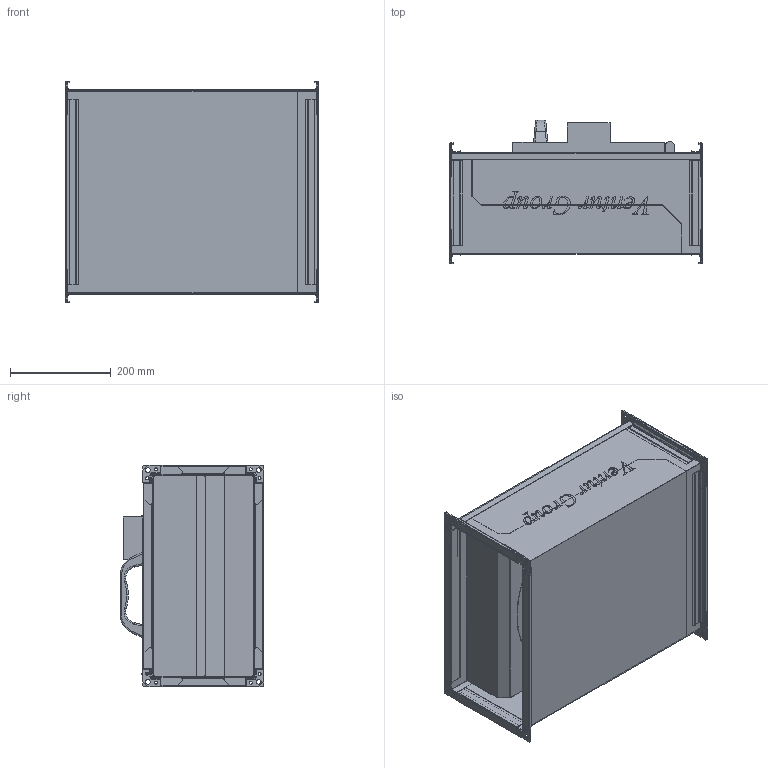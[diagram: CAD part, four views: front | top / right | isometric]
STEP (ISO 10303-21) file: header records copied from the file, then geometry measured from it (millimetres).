
FILE_DESCRIPTION(/* description */ (''),/* implementation_level */ '2;1');
FILE_NAME(/* name */ 'C:\Users\M.Janczarek\Documents\Modele uproszczone\IBF EC\IBF_EC_220S 41010025\IBF_EC_220S 41010025\IBF_EC_220S 41010025.stp',/* time_stamp */ '2018-03-30T09:43:46+02:00',/* author */ ('M.Janczarek'),/* organization */ (''),/* preprocessor_version */ 'ST-DEVELOPER v16.5',/* originating_system */ 'Autodesk Inventor 2017',/* authorisation */ '');
FILE_SCHEMA (('AUTOMOTIVE_DESIGN { 1 0 10303 214 3 1 1 }'));
Products named in the file (1): IBF_EC_220S 41010025
Bounding box: 501.6 x 284.99 x 439.97 mm (x, y, z)
Volume: 6595012.1 mm3; surface area: 2154862.5 mm2
Topology: 1 solids, 1 shells, 1716 faces, 4938 edges, 3180 vertices
Faces by surface type: plane 784, cylinder 470, bspline 354, torus 64, cone 28, sphere 16
Full cylindrical faces by diameter (mm): 6 x16, 9 x8, 150 x1, 226 x1
Entity records: 62689 total; most frequent: CARTESIAN_POINT 17915, ORIENTED_EDGE 9792, DIRECTION 8056, EDGE_CURVE 4896, VERTEX_POINT 3180, LINE 3034, VECTOR 3034, AXIS2_PLACEMENT_3D 2511
